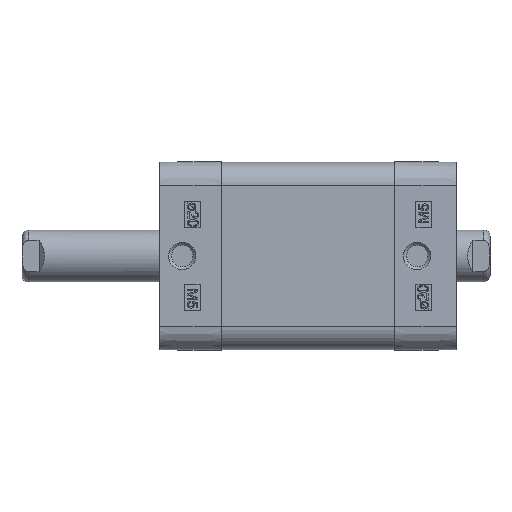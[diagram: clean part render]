
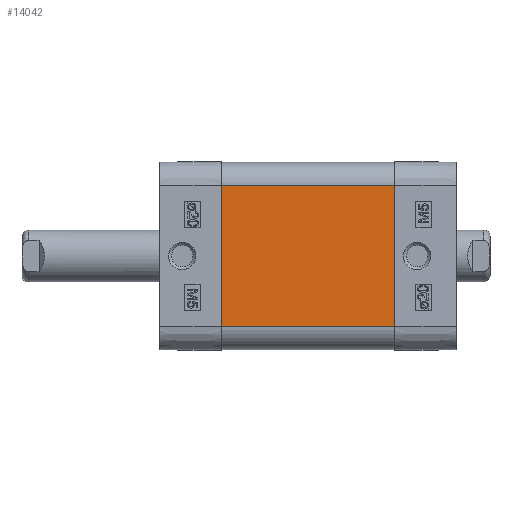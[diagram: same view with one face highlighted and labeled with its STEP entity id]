
A CAD part, left-side view. The second image highlights one B-rep face of the part: STEP entity #14042.
In plain terms, the highlighted planar face has unit normal (-1, 0, 0).
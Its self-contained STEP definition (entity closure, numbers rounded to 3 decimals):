
#787=PLANE('',#14945);
#1518=LINE('',#21438,#2358);
#1546=LINE('',#21551,#2386);
#1628=LINE('',#21771,#2468);
#1629=LINE('',#21773,#2469);
#2358=VECTOR('',#17210,1000.);
#2386=VECTOR('',#17296,1000.);
#2468=VECTOR('',#17542,1000.);
#2469=VECTOR('',#17545,1000.);
#5221=ORIENTED_EDGE('',*,*,#6573,.T.);
#5222=ORIENTED_EDGE('',*,*,#6739,.T.);
#5223=ORIENTED_EDGE('',*,*,#6740,.T.);
#5224=ORIENTED_EDGE('',*,*,#6629,.F.);
#6573=EDGE_CURVE('',#7631,#7632,#1518,.T.);
#6629=EDGE_CURVE('',#7631,#7687,#1546,.T.);
#6739=EDGE_CURVE('',#7632,#7742,#1628,.T.);
#6740=EDGE_CURVE('',#7742,#7687,#1629,.T.);
#7631=VERTEX_POINT('',#21439);
#7632=VERTEX_POINT('',#21440);
#7687=VERTEX_POINT('',#21552);
#7742=VERTEX_POINT('',#21770);
#8884=EDGE_LOOP('',(#5221,#5222,#5223,#5224));
#9656=FACE_BOUND('',#8884,.T.);
#14042=ADVANCED_FACE('',(#9656),#787,.T.);
#14945=AXIS2_PLACEMENT_3D('',#21772,#17543,#17544);
#17210=DIRECTION('',(0.,0.,-1.));
#17296=DIRECTION('',(0.,-1.,0.));
#17542=DIRECTION('',(0.,-1.,0.));
#17543=DIRECTION('',(-1.,0.,0.));
#17544=DIRECTION('',(0.,0.,1.));
#17545=DIRECTION('',(0.,0.,1.));
#21438=CARTESIAN_POINT('',(-18.,9.25,13.5));
#21439=CARTESIAN_POINT('',(-18.,9.25,13.5));
#21440=CARTESIAN_POINT('',(-18.,9.25,-13.5));
#21551=CARTESIAN_POINT('',(-18.,9.25,13.5));
#21552=CARTESIAN_POINT('',(-18.,-24.15,13.5));
#21770=CARTESIAN_POINT('',(-18.,-24.15,-13.5));
#21771=CARTESIAN_POINT('',(-18.,9.25,-13.5));
#21772=CARTESIAN_POINT('',(-18.,0.,13.5));
#21773=CARTESIAN_POINT('',(-18.,-24.15,-13.5));
